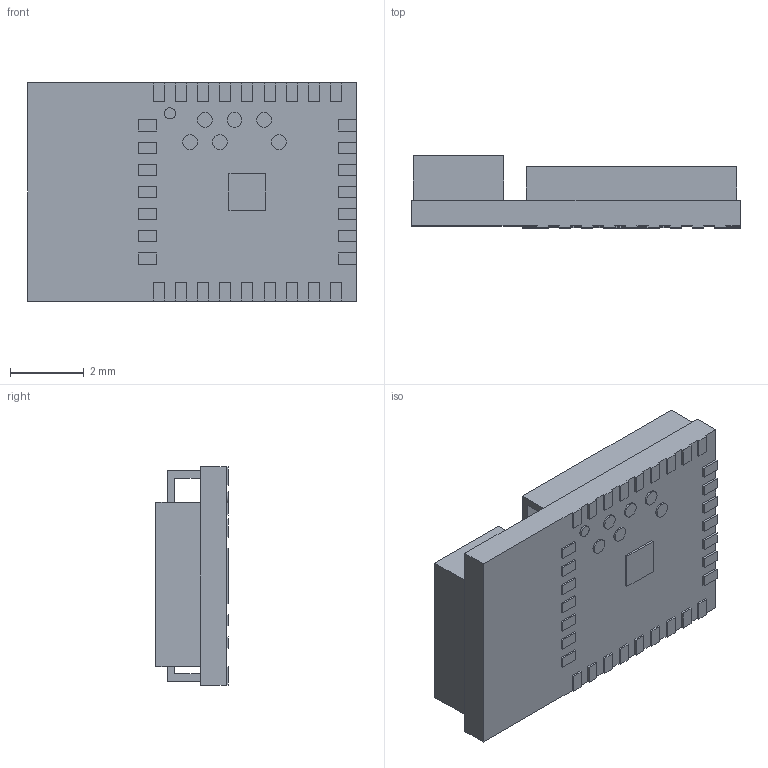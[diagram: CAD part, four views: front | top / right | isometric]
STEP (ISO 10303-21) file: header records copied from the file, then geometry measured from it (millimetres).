
FILE_DESCRIPTION(('STEP AP203'),'1');
FILE_NAME('52a_ant.stp','2024-07-24T05:50:13',(' '),(' '),'Spatial InterOp 3D',' ',' ');
FILE_SCHEMA(('CONFIG_CONTROL_DESIGN'));
Length unit declared in the file: metre
Products named in the file (1): 1
Bounding box: 8.9 x 1.95 x 5.9 mm (x, y, z)
Volume: 58.3 mm3; surface area: 364.6 mm2
Topology: 1 solids, 4 shells, 183 faces, 936 edges, 774 vertices
Faces by surface type: plane 169, cylinder 14
Entity records: 9386 total; most frequent: CARTESIAN_POINT 1897, ORIENTED_EDGE 1422, DIRECTION 1380, EDGE_CURVE 936, LINE 866, VECTOR 866, VERTEX_POINT 774, AXIS2_PLACEMENT_3D 257
